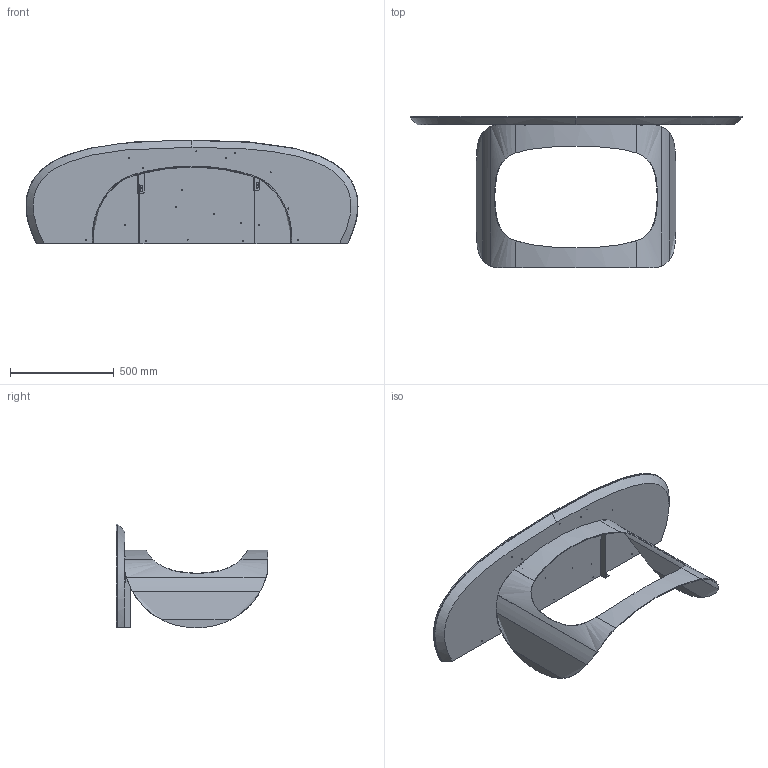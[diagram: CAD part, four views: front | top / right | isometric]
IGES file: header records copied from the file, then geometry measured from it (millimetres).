
Start section: SolidWorks IGES file using analytic representation for surfaces
Global section: file name: Y:\eforma\TECNICO\SOLIDWORKS\E-FORMA\3-CONSOLE\POLIFEMO CONSOLE\08 modelli 3D web\PO60C_Polifemo Console_160x50x73h_Ceramic Shaped.IGS; native system: SolidWorks 2022; preprocessor: SolidWorks 2022; author: eforma.tech; date: 240802.101514; units: millimetre
Bounding box: 1599.91 x 731 x 500.03 mm (x, y, z)
Volume: 30192452.2 mm3; surface area: 4086412.8 mm2
Topology: 7 solids, 7 shells, 289 faces, 754 edges, 475 vertices
Faces by surface type: revolution 155, plane 84, bspline 50
